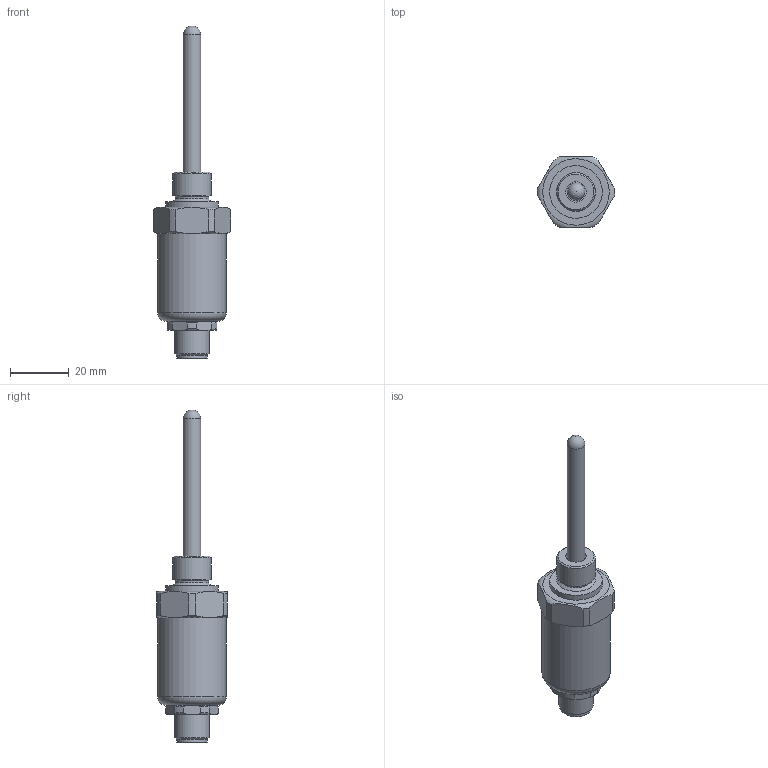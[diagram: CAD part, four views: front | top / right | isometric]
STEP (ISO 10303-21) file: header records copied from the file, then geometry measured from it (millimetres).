
FILE_DESCRIPTION((''),'2;1');
FILE_NAME('R:\Mekanisk design\HBTS2\5. STEP files\HBTS-60.stp','2015-06-19T10:59:30',('kc'),(''),'Autodesk Inventor 2013','Autodesk Inventor 2013','');
FILE_SCHEMA(('AUTOMOTIVE_DESIGN { 1 0 10303 214 1 1 1 1 }'));
Length unit declared in the file: millimetre
Products named in the file (1): HBTS-60
Bounding box: 26.49 x 24.06 x 113.5 mm (x, y, z)
Volume: 15740.6 mm3; surface area: 14732.7 mm2
Topology: 1 solids, 4 shells, 469 faces, 1287 edges, 841 vertices
Faces by surface type: plane 331, cylinder 86, torus 25, cone 17, bspline 8, sphere 2
Full cylindrical faces by diameter (mm): 0.7 x8, 0.9 x4, 1 x4, 3.5 x1, 4.5 x1, 5 x1, 6 x1, 7 x1, 8.4 x1, 8.7 x1, 9.36 x1, 9.45 x1, 9.5 x1, 9.7 x1, 10.5 x1, 11.5 x1, 11.8 x2, 12 x2, 13.157 x1, 14 x2, 14.5 x1, 16.5 x2, 17 x2, 18 x1, 20 x2, 23.5 x1
Entity records: 15634 total; most frequent: CARTESIAN_POINT 3641, ORIENTED_EDGE 2348, DIRECTION 2274, EDGE_CURVE 1174, VECTOR 816, LINE 816, VERTEX_POINT 803, AXIS2_PLACEMENT_3D 729
